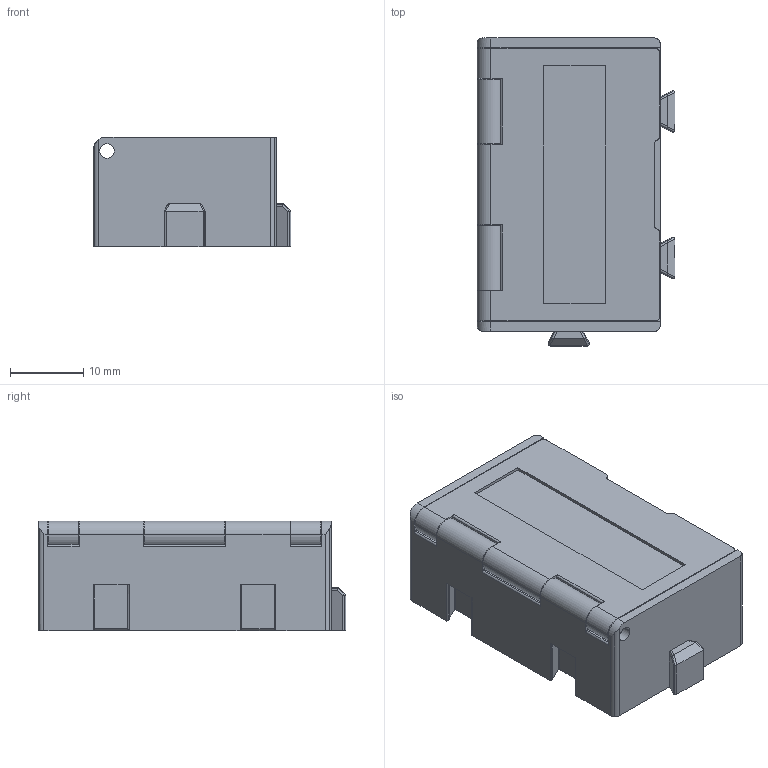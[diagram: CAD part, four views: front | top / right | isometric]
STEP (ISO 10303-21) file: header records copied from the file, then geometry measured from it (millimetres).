
FILE_DESCRIPTION(('STEP AP214'),'1');
FILE_NAME('mod_40x25x15.stp','2022-08-05T18:46:12',(' '),(' '),'Spatial InterOp 3D',' ',' ');
FILE_SCHEMA(('AUTOMOTIVE_DESIGN { 1 0 10303 214 1 1 1 1 }'));
Length unit declared in the file: metre
Products named in the file (1): Box
Bounding box: 27 x 42 x 15 mm (x, y, z)
Volume: 4934.4 mm3; surface area: 8075 mm2
Topology: 2 solids, 5 shells, 278 faces, 787 edges, 520 vertices
Faces by surface type: cylinder 156, plane 102, cone 12, torus 8
Entity records: 9481 total; most frequent: CARTESIAN_POINT 1998, DIRECTION 1607, ORIENTED_EDGE 1574, EDGE_CURVE 787, AXIS2_PLACEMENT_3D 588, VERTEX_POINT 520, LINE 431, VECTOR 431
